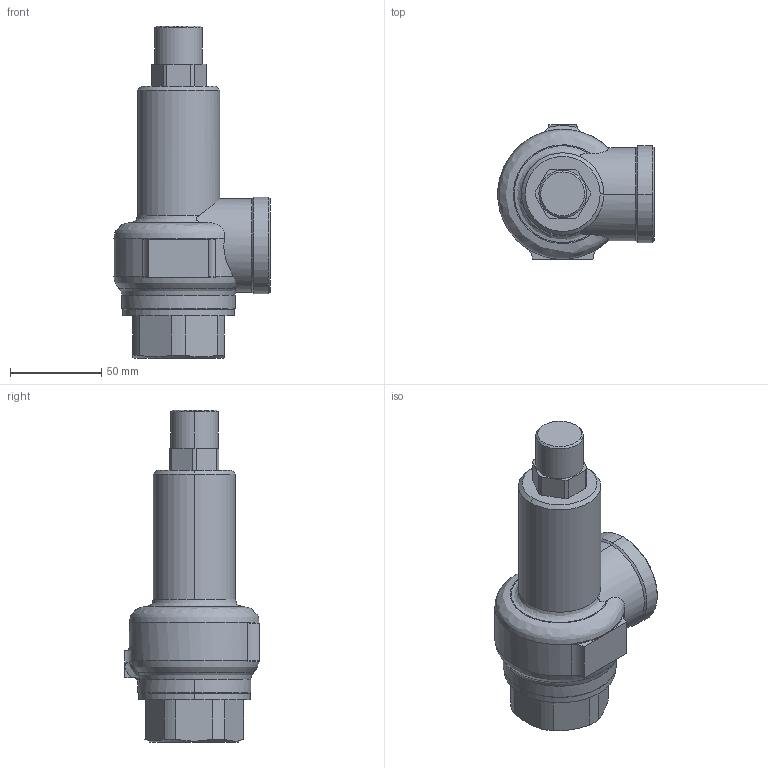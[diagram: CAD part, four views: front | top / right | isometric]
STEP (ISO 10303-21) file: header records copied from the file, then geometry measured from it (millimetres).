
FILE_DESCRIPTION( (''), '2;1');
FILE_NAME ('PC1027.9568.AL-150 32A_16536.stp','2025-07-28T14:23:03',(''),(''),'spGate 19.8.4 (****-****-****-****)','','');
FILE_SCHEMA (('AUTOMOTIVE_DESIGN'));
Length unit declared in the file: millimetre
Bounding box: 85.44 x 73.5 x 181.5 mm (x, y, z)
Volume: 394200.5 mm3; surface area: 40184 mm2
Topology: 1 solids, 1 shells, 86 faces, 221 edges, 142 vertices
Faces by surface type: cylinder 33, plane 30, bspline 23
Entity records: 5141 total; most frequent: CARTESIAN_POINT 1469, ORIENTED_EDGE 442, DIRECTION 357, COLOUR_RGB 308, PRESENTATION_STYLE_ASSIGNMENT 308, STYLED_ITEM 308, EDGE_CURVE 221, DRAUGHTING_PRE_DEFINED_CURVE_FONT 221
